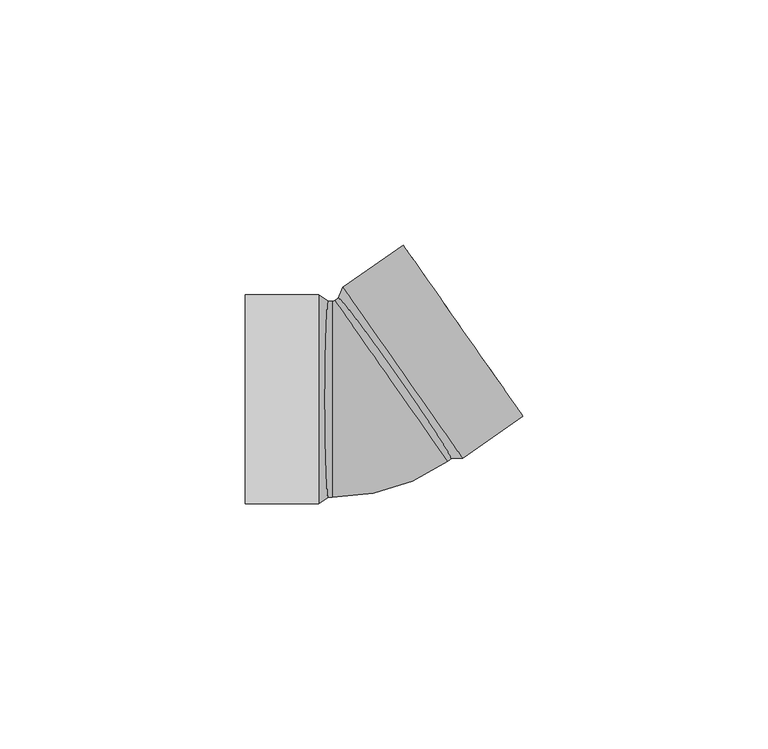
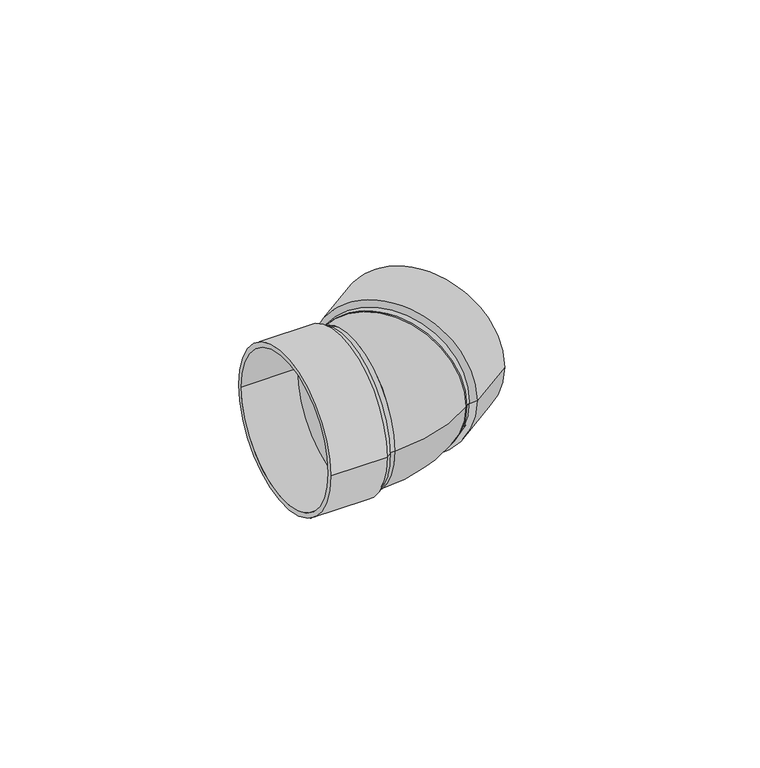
"""IFC4 building model written with IfcOpenShell, lengths in millimetres: pipe fitting geometry, Joelho 45_90 - Serie Normal - Esgoto : Joelho 45_90 - Serie Normal - Esgoto."""

from ifc_helpers import new_model, si_unit, point, frame, origin, origin_2d, place, context, project, spatial, polyline, circle_curve, ellipse_curve, trimmed, segment, composite_curve, outline, extrude, source, transform, mapped, element, save
from ifc_brep_helpers import plane_surface, cylinder_surface, revolved_surface, advanced_brep


def pipe_fitting_a3cdd3d7(model_context):
    return source(origin(), model_context, "Body", "SolidModel", [
        extrude(outline(composite_curve([segment(trimmed(circle_curve(origin_2d(), 20.0), [point((0.0, 20.0))], [point((0.0, -20.0))], False, "CARTESIAN"), True, "CONTINUOUS"), segment(trimmed(circle_curve(origin_2d(), 20.0), [point((0.0, -20.0))], [point((0.0, 20.0))], False, "CARTESIAN"), True, "CONTINUOUS")], self_intersect=False)), frame((5.4231171, 3.7962886, 0.0), z_axis=(0.8192243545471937, 0.5734731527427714, 0.0), x_axis=(0.0, 0.0, 1.0)), (0.0, 0.0, 1.0), 2.8),
        extrude(outline(composite_curve([segment(trimmed(circle_curve(origin_2d(), 20.0), [point((-20.0, 0.0))], [point((20.0, 0.0))], False, "CARTESIAN"), True, "CONTINUOUS"), segment(trimmed(circle_curve(origin_2d(), 20.0), [point((20.0, 0.0))], [point((-20.0, 0.0))], False, "CARTESIAN"), True, "CONTINUOUS")], self_intersect=False)), frame((-9.4198191, 0.0, 0.0), z_axis=(1.0, 0.0, 0.0), x_axis=(0.0, 1.0, 0.0)), (0.0, 0.0, 1.0), 2.8),
        advanced_brep(
        [(-24.4198191, 21.3, 0.0), (-24.4198191, -21.3, 0.0), (-24.4198191, 20.0, 0.0), (-24.4198191, -20.0, 0.0), (-9.4198191, -20.0, 0.0), (-9.4198191, 20.0, 0.0), (-9.4198191, -21.3, 0.0), (-9.4198191, 21.3, 0.0), (-7.4198191, -20.0, 0.0), (-7.4198191, 20.0, 0.0), (-6.6198191, 20.0, 0.0), (-6.6198191, -20.0, 0.0), (-6.6198191, 0.0, 20.0), (-6.6198191, 0.0, -20.0), (16.8925801, -12.5881985, 0.0), (-6.046346, 20.1807756, 0.0)],
        [
            (0, 1, circle_curve(frame((-24.4198191, 0.0, 0.0), z_axis=(-1.0, 0.0, 0.0), x_axis=(0.0, -1.0, 0.0)), 21.3)),
            (1, 0, circle_curve(frame((-24.4198191, 0.0, 0.0), z_axis=(-1.0, 0.0, 0.0), x_axis=(0.0, -1.0, 0.0)), 21.3)),
            (2, 3, circle_curve(frame((-24.4198191, 0.0, 0.0), z_axis=(1.0, 0.0, 0.0), x_axis=(0.0, -1.0, 0.0)), 20.0)),
            (3, 2, circle_curve(frame((-24.4198191, 0.0, 0.0), z_axis=(1.0, 0.0, 0.0), x_axis=(0.0, -1.0, 0.0)), 20.0)),
            (3, 4),
            (4, 5, circle_curve(frame((-9.4198191, 0.0, 0.0), z_axis=(1.0, 0.0, 0.0), x_axis=(0.0, -1.0, 0.0)), 20.0)),
            (5, 2),
            (5, 4, circle_curve(frame((-9.4198191, 0.0, 0.0), z_axis=(1.0, 0.0, 0.0), x_axis=(0.0, -1.0, 0.0)), 20.0)),
            (1, 6),
            (6, 7, circle_curve(frame((-9.4198191, 0.0, 0.0), z_axis=(-1.0, 0.0, 0.0), x_axis=(0.0, -1.0, 0.0)), 21.3)),
            (7, 0),
            (7, 6, circle_curve(frame((-9.4198191, 0.0, 0.0), z_axis=(-1.0, 0.0, 0.0), x_axis=(0.0, -1.0, 0.0)), 21.3)),
            (8, 6),
            (7, 9),
            (9, 8, circle_curve(frame((-7.4198191, 0.0, 0.0), z_axis=(-1.0, 0.0, 0.0), x_axis=(0.0, 1.0, 0.0)), 20.0)),
            (8, 9, circle_curve(frame((-7.4198191, 0.0, 0.0), z_axis=(-1.0, 0.0, 0.0), x_axis=(0.0, -1.0, 0.0)), 20.0)),
            (10, 9),
            (8, 11),
            (11, 12, circle_curve(frame((-6.6198191, 0.0, 0.0), z_axis=(-1.0, 0.0, 0.0), x_axis=(0.0, -1.0, 0.0)), 20.0)),
            (12, 10, circle_curve(frame((-6.6198191, 0.0, 0.0), z_axis=(-1.0, 0.0, 0.0), x_axis=(0.0, -1.0, 0.0)), 20.0)),
            (10, 13, circle_curve(frame((-6.6198191, 0.0, 0.0), z_axis=(-1.0, 0.0, 0.0), x_axis=(0.0, -1.0, 0.0)), 20.0)),
            (13, 11, circle_curve(frame((-6.6198191, 0.0, 0.0), z_axis=(-1.0, 0.0, 0.0), x_axis=(0.0, -1.0, 0.0)), 20.0)),
            (14, 15, circle_curve(frame((5.4231171, 3.7962886, 0.0), z_axis=(0.8192243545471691, 0.5734731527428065, 0.0), x_axis=(-0.5734731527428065, 0.8192243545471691, 0.0)), 20.0)),
            (15, 14, circle_curve(frame((5.4231171, 3.7962886, 0.0), z_axis=(0.8192243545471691, 0.5734731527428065, 0.0), x_axis=(-0.5734731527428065, 0.8192243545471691, 0.0)), 20.0)),
            (15, 10, circle_curve(frame((-6.6198191, 21.0, 0.0), z_axis=(0.0, 0.0, -1.0), x_axis=(0.0, -1.0, 0.0)), 1.0)),
            (11, 14, circle_curve(frame((-6.6198191, 21.0, 0.0), z_axis=(0.0, 0.0, 1.0), x_axis=(0.0, -1.0, 0.0)), 41.0)),
        ],
        [
            plane_surface(frame((-24.4198191, 0.0, 0.0), z_axis=(-1.0, 0.0, 0.0), x_axis=(0.0, 0.0, 1.0))),
            revolved_surface(polyline([(-24.4198191, -20.0, 0.0), (-9.4198191, -20.0, 0.0)]), (-9.4198191, 0.0, 0.0), (-1.0, 0.0, 0.0)),
            cylinder_surface(frame((-9.4198191, 0.0, 0.0), z_axis=(1.0, 0.0, 0.0), x_axis=(0.0, -1.0, 0.0)), 21.3),
            plane_surface(frame((-9.4198191, 0.0, 0.0), z_axis=(-1.0, 0.0, 0.0), x_axis=(0.0, 0.0, -1.0))),
            revolved_surface(polyline([(-7.4198191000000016, -19.99999999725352, 0.0), (-9.419819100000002, -21.3, 0.0)]), (23.3494116, 0.0, 0.0), (-1.0, 0.0, 0.0)),
            cylinder_surface(frame((-6.6198191, 0.0, 0.0), z_axis=(1.0, 0.0, 0.0), x_axis=(0.0, -1.0, 0.0)), 20.0),
            plane_surface(frame((5.4231171, 3.7962886, 0.0), z_axis=(0.819224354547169, 0.5734731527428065, 0.0), x_axis=(0.0, 0.0, 1.0))),
            revolved_surface(trimmed(ellipse_curve(frame((-6.6198191, 0.0, 0.0), z_axis=(-1.0, 0.0, 0.0), x_axis=(0.0, 1.0, 0.0)), 20.0, 20.0), [point((-6.6198191, -20.0, 0.0))], [point((-6.6198191, 20.0, 0.0))], True, "CARTESIAN"), (-6.6198191, 21.0, 0.0), (0.0, 0.0, 1.0)),
            revolved_surface(trimmed(ellipse_curve(frame((-6.6198191, 0.0, 0.0), z_axis=(-1.0, 0.0, 0.0), x_axis=(0.0, 1.0, 0.0)), 20.0, 20.0), [point((-6.6198191, 20.0, 0.0))], [point((-6.6198191, -20.0, 0.0))], True, "CARTESIAN"), (-6.6198191, 21.0, 0.0), (0.0, 0.0, 1.0)),
        ],
        [
            (0, [[1, 2], [3, 4]]),
            (1, [[-4, 5, 6, 7]]),
            (1, [[-3, -7, 8, -5]]),
            (2, [[-2, 9, 10, 11]]),
            (2, [[-1, -11, 12, -9]]),
            (3, [[-6, -8]]),
            (4, [[13, -12, 14, 15]]),
            (4, [[-13, 16, -14, -10]]),
            (5, [[17, -16, 18, 19, 20]]),
            (5, [[-17, 21, 22, -18, -15]]),
            (6, [[23, 24]]),
            (7, [[-24, 25, -20, -19, 26]]),
            (8, [[-23, -26, -22, -21, -25]]),
        ],
    ),
        advanced_brep(
        [(19.1864083, -10.9824737, 0.0), (-3.7525178, 21.7865005, 0.0), (-5.3909665, 20.6395542, 0.0), (-4.4980329, 22.8514921, 0.0), (19.9319234, -12.0474654, 0.0), (17.5479596, -12.12942, 0.0), (32.2202887, -3.4453681, 0.0), (7.7903324, 31.4535894, 0.0), (31.4747736, -2.3803764, 0.0), (8.5358475, 30.3885978, 0.0), (16.8925801, -12.5881985, 0.0), (-6.046346, 20.1807756, 0.0), (5.4231171, 3.7962886, 20.0), (5.4231171, 3.7962886, -20.0), (-6.6198191, -20.0, 0.0), (-6.6198191, 20.0, 0.0)],
        [
            (0, 1, circle_curve(frame((7.7169453, 5.4020134, 0.0), z_axis=(0.8192243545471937, 0.5734731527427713, 0.0), x_axis=(-0.5734731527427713, 0.8192243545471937, 0.0)), 20.0)),
            (1, 0, circle_curve(frame((7.7169453, 5.4020134, 0.0), z_axis=(0.8192243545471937, 0.5734731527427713, 0.0), x_axis=(-0.5734731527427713, 0.8192243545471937, 0.0)), 20.0)),
            (2, 3),
            (3, 4, circle_curve(frame((7.7169453, 5.4020134, 0.0), z_axis=(-0.8192243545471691, -0.5734731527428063, 0.0), x_axis=(0.5734731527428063, -0.8192243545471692, 0.0)), 21.3)),
            (4, 5),
            (5, 2, circle_curve(frame((6.0784965, 4.2550671, 0.0), z_axis=(0.8192243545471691, 0.5734731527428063, 0.0), x_axis=(0.5734731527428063, -0.8192243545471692, 0.0)), 20.0)),
            (2, 5, circle_curve(frame((6.0784965, 4.2550671, 0.0), z_axis=(0.8192243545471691, 0.5734731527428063, 0.0), x_axis=(-0.5734731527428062, 0.8192243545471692, 0.0)), 20.0)),
            (4, 3, circle_curve(frame((7.7169453, 5.4020134, 0.0), z_axis=(-0.8192243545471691, -0.5734731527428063, 0.0), x_axis=(-0.5734731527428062, 0.8192243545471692, 0.0)), 21.3)),
            (6, 7, circle_curve(frame((20.0053106, 14.0041107, 0.0), z_axis=(0.8192243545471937, 0.5734731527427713, 0.0), x_axis=(-0.5734731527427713, 0.8192243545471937, 0.0)), 21.3)),
            (7, 6, circle_curve(frame((20.0053106, 14.0041107, 0.0), z_axis=(0.8192243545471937, 0.5734731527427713, 0.0), x_axis=(-0.5734731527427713, 0.8192243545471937, 0.0)), 21.3)),
            (8, 9, circle_curve(frame((20.0053106, 14.0041107, 0.0), z_axis=(-0.8192243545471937, -0.5734731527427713, 0.0), x_axis=(-0.5734731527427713, 0.8192243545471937, 0.0)), 20.0)),
            (9, 8, circle_curve(frame((20.0053106, 14.0041107, 0.0), z_axis=(-0.8192243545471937, -0.5734731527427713, 0.0), x_axis=(-0.5734731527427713, 0.8192243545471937, 0.0)), 20.0)),
            (7, 3),
            (4, 6),
            (9, 1),
            (0, 8),
            (10, 5),
            (2, 11),
            (11, 12, circle_curve(frame((5.4231171, 3.7962886, 0.0), z_axis=(0.8192243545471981, 0.5734731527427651, 0.0), x_axis=(-0.5734731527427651, 0.8192243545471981, 0.0)), 20.0)),
            (12, 10, circle_curve(frame((5.4231171, 3.7962886, 0.0), z_axis=(0.8192243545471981, 0.5734731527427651, 0.0), x_axis=(-0.5734731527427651, 0.8192243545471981, 0.0)), 20.0)),
            (10, 13, circle_curve(frame((5.4231171, 3.7962886, 0.0), z_axis=(0.8192243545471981, 0.5734731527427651, 0.0), x_axis=(-0.5734731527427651, 0.8192243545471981, 0.0)), 20.0)),
            (13, 11, circle_curve(frame((5.4231171, 3.7962886, 0.0), z_axis=(0.8192243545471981, 0.5734731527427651, 0.0), x_axis=(-0.5734731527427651, 0.8192243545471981, 0.0)), 20.0)),
            (14, 15, circle_curve(frame((-6.6198191, 0.0, 0.0), z_axis=(-1.0, 0.0, 0.0), x_axis=(0.0, 1.0, 0.0)), 20.0)),
            (15, 14, circle_curve(frame((-6.6198191, 0.0, 0.0), z_axis=(-1.0, 0.0, 0.0), x_axis=(0.0, 1.0, 0.0)), 20.0)),
            (14, 10, circle_curve(frame((-6.6198191, 21.0, 0.0), z_axis=(0.0, 0.0, 1.0), x_axis=(0.0, -1.0, 0.0)), 41.0)),
            (11, 15, circle_curve(frame((-6.6198191, 21.0, 0.0), z_axis=(0.0, 0.0, -1.0), x_axis=(0.0, -1.0, 0.0)), 1.0)),
        ],
        [
            plane_surface(frame((7.7169453, 5.4020134, 0.0), z_axis=(0.8192243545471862, 0.573473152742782, 0.0), x_axis=(0.0, 0.0, -1.0))),
            revolved_surface(polyline([(-5.390966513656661, 20.639554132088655, 0.0), (-4.4980328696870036, 22.851492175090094, 0.0)]), (-19.1284067, -13.3902607, 0.0), (0.8192243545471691, 0.5734731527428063, 0.0)),
            plane_surface(frame((20.0053106, 14.0041107, 0.0), z_axis=(0.8192243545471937, 0.5734731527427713, 0.0), x_axis=(0.0, 0.0, 1.0))),
            cylinder_surface(frame((7.7169453, 5.4020134, 0.0), z_axis=(-0.8192243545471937, -0.5734731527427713, 0.0), x_axis=(-0.5734731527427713, 0.8192243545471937, 0.0)), 21.3),
            revolved_surface(polyline([(8.535847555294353, 30.3885977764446, 0.0), (-3.752517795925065, 21.786500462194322, 0.0)]), (7.7169453, 5.4020134, 0.0), (0.8192243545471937, 0.5734731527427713, 0.0)),
            cylinder_surface(frame((5.4231171, 3.7962886, 0.0), z_axis=(-0.8192243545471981, -0.5734731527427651, 0.0), x_axis=(-0.5734731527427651, 0.8192243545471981, 0.0)), 20.0),
            plane_surface(frame((-6.6198191, 0.0, 0.0), z_axis=(-1.0, 0.0, 0.0), x_axis=(0.0, 0.0, 1.0))),
            revolved_surface(trimmed(ellipse_curve(frame((-6.6198191, 0.0, 0.0), z_axis=(-1.0, 0.0, 0.0), x_axis=(0.0, 1.0, 0.0)), 20.0, 20.0), [point((-6.6198191, -20.0, 0.0))], [point((-6.6198191, 20.0, 0.0))], True, "CARTESIAN"), (-6.6198191, 21.0, 0.0), (0.0, 0.0, 1.0)),
            revolved_surface(trimmed(ellipse_curve(frame((-6.6198191, 0.0, 0.0), z_axis=(-1.0, 0.0, 0.0), x_axis=(0.0, 1.0, 0.0)), 20.0, 20.0), [point((-6.6198191, 20.0, 0.0))], [point((-6.6198191, -20.0, 0.0))], True, "CARTESIAN"), (-6.6198191, 21.0, 0.0), (0.0, 0.0, 1.0)),
        ],
        [
            (0, [[1, 2]]),
            (1, [[3, 4, 5, 6]]),
            (1, [[-3, 7, -5, 8]]),
            (2, [[9, 10], [11, 12]]),
            (3, [[-10, 13, -8, 14]]),
            (3, [[-9, -14, -4, -13]]),
            (4, [[-12, 15, -1, 16]]),
            (4, [[-11, -16, -2, -15]]),
            (5, [[17, -7, 18, 19, 20]]),
            (5, [[-17, 21, 22, -18, -6]]),
            (6, [[23, 24]]),
            (7, [[-23, 25, -20, -19, 26]]),
            (8, [[-24, -26, -22, -21, -25]]),
        ],
    ),
    ])


if __name__ == "__main__":
    model = new_model("IFC4")
    model_context = context("Model", 3, world=origin())
    ifc_project = project(units=[si_unit("LENGTHUNIT", "METRE", prefix="MILLI")], contexts=[model_context])
    site = spatial("IfcSite", under=ifc_project)
    building = spatial("IfcBuilding", under=site)
    placement = place(None, origin())
    pipe_fitting_shape = pipe_fitting_a3cdd3d7(model_context)
    element("IfcPipeFitting", 1, ObjectType="Joelho 45_90 - Serie Normal - Esgoto : Joelho 45_90 - Serie Normal - Esgoto", at=placement, inside=building, context=model_context, shape_type="MappedRepresentation", body=[
        mapped(pipe_fitting_shape, transform((0.0, 0.0, 0.0), x_axis=(1.0, 0.0, 0.0), y_axis=(0.0, 1.0, 0.0), z_axis=(0.0, 0.0, 1.0))),
    ])
    save(model, "model.ifc")
